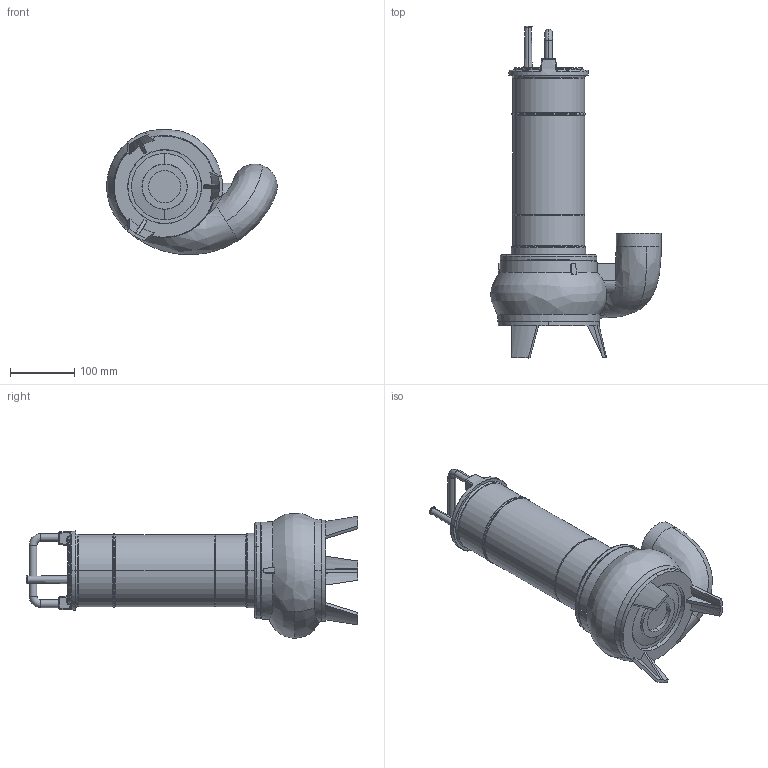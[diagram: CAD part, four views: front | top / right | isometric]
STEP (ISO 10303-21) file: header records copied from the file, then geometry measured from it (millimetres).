
FILE_DESCRIPTION (( 'STEP AP203' ), '1' );
FILE_NAME ('50FWS_09-11_threaded.STEP', '2026-06-08T12:20:33', ( '' ), ( '' ), 'SwSTEP 2.0', 'SolidWorks 2024', '' );
FILE_SCHEMA (( 'CONFIG_CONTROL_DESIGN' ));
Length unit declared in the file: millimetre
Products named in the file (1): 50FWS_09-11_threaded
Bounding box: 265 x 515.7 x 194.8 mm (x, y, z)
Volume: 6038170.1 mm3; surface area: 277145.3 mm2
Topology: 1 solids, 5 shells, 373 faces, 897 edges, 547 vertices
Faces by surface type: plane 137, cylinder 69, bspline 69, torus 45, cone 41, sphere 12
Entity records: 14898 total; most frequent: CARTESIAN_POINT 6660, ORIENTED_EDGE 1770, DIRECTION 1584, EDGE_CURVE 885, AXIS2_PLACEMENT_3D 606, VERTEX_POINT 547, EDGE_LOOP 402, ADVANCED_FACE 373
